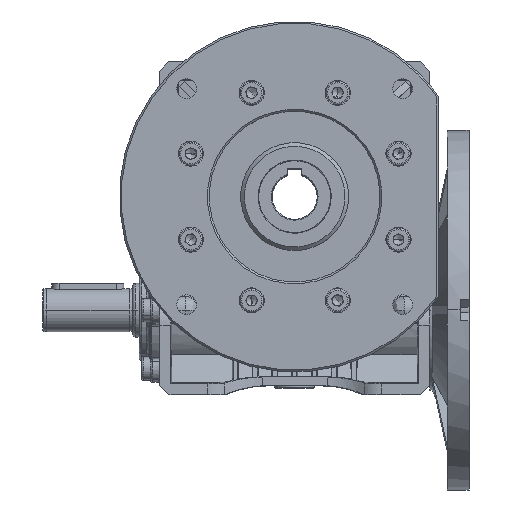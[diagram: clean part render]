
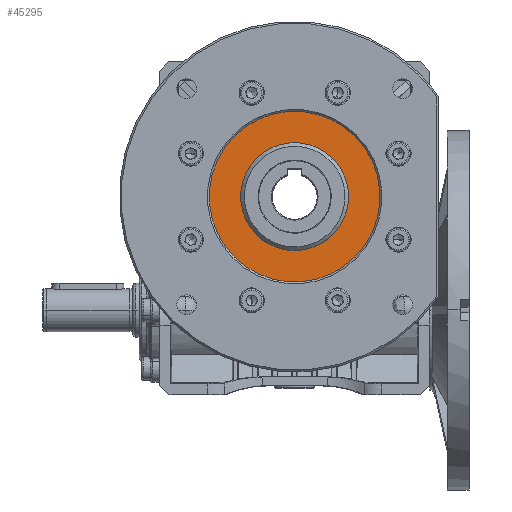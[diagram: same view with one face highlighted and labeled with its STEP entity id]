
A CAD part, top view. The second image highlights one B-rep face of the part: STEP entity #45295.
In plain terms, the highlighted planar face has unit normal (0, 0, 1).
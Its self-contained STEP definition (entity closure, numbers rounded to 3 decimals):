
#12583 = CARTESIAN_POINT ( 'NONE',  ( 0., 0., 76. ) ) ;
#13094 = DIRECTION ( 'NONE',  ( 0., 0., -1. ) ) ;
#13848 = DIRECTION ( 'NONE',  ( 0., 0., 1. ) ) ;
#15398 = DIRECTION ( 'NONE',  ( 0., 0., 1. ) ) ;
#15937 = DIRECTION ( 'NONE',  ( -0.707, -0.707, 0. ) ) ;
#16703 = AXIS2_PLACEMENT_3D ( 'NONE', #116615, #15398, #19651 ) ;
#19651 = DIRECTION ( 'NONE',  ( -0.707, -0.707, 0. ) ) ;
#20475 = CARTESIAN_POINT ( 'NONE',  ( 21.213, 21.213, 76. ) ) ;
#29910 = EDGE_CURVE ( 'NONE', #62662, #45640, #37821, .T. ) ;
#34209 = CARTESIAN_POINT ( 'NONE',  ( -21.213, -21.213, 76. ) ) ;
#37821 = CIRCLE ( 'NONE', #125364, 30. ) ;
#41453 = ORIENTED_EDGE ( 'NONE', *, *, #29910, .T. ) ;
#43768 = AXIS2_PLACEMENT_3D ( 'NONE', #80753, #13094, #52023 ) ;
#44325 = EDGE_LOOP ( 'NONE', ( #56516, #120157 ) ) ;
#45295 = ADVANCED_FACE ( 'NONE', ( #86246, #115565 ), #116192, .F. ) ;
#45640 = VERTEX_POINT ( 'NONE', #106475 ) ;
#49324 = CIRCLE ( 'NONE', #16703, 48.5 ) ;
#52023 = DIRECTION ( 'NONE',  ( -0.707, -0.707, 0. ) ) ;
#52762 = DIRECTION ( 'NONE',  ( -0.707, -0.707, 0. ) ) ;
#53998 = EDGE_CURVE ( 'NONE', #77110, #83317, #49324, .T. ) ;
#56516 = ORIENTED_EDGE ( 'NONE', *, *, #53998, .T. ) ;
#56874 = ORIENTED_EDGE ( 'NONE', *, *, #72981, .T. ) ;
#59386 = DIRECTION ( 'NONE',  ( 0., 0., -1. ) ) ;
#62662 = VERTEX_POINT ( 'NONE', #34209 ) ;
#63801 = CARTESIAN_POINT ( 'NONE',  ( 0., 0., 76. ) ) ;
#63921 = AXIS2_PLACEMENT_3D ( 'NONE', #20475, #59386, #109074 ) ;
#70118 = CIRCLE ( 'NONE', #43768, 30. ) ;
#72981 = EDGE_CURVE ( 'NONE', #45640, #62662, #70118, .T. ) ;
#77001 = AXIS2_PLACEMENT_3D ( 'NONE', #12583, #13848, #52762 ) ;
#77110 = VERTEX_POINT ( 'NONE', #119138 ) ;
#80753 = CARTESIAN_POINT ( 'NONE',  ( 0., 0., 76. ) ) ;
#83317 = VERTEX_POINT ( 'NONE', #89458 ) ;
#86246 = FACE_BOUND ( 'NONE', #90132, .T. ) ;
#89458 = CARTESIAN_POINT ( 'NONE',  ( 34.295, 34.295, 76. ) ) ;
#90132 = EDGE_LOOP ( 'NONE', ( #41453, #56874 ) ) ;
#99312 = CIRCLE ( 'NONE', #77001, 48.5 ) ;
#99992 = EDGE_CURVE ( 'NONE', #83317, #77110, #99312, .T. ) ;
#102700 = DIRECTION ( 'NONE',  ( 0., 0., -1. ) ) ;
#106475 = CARTESIAN_POINT ( 'NONE',  ( 21.213, 21.213, 76. ) ) ;
#109074 = DIRECTION ( 'NONE',  ( -0.707, -0.707, 0. ) ) ;
#115565 = FACE_OUTER_BOUND ( 'NONE', #44325, .T. ) ;
#116192 = PLANE ( 'NONE',  #63921 ) ;
#116615 = CARTESIAN_POINT ( 'NONE',  ( 0., 0., 76. ) ) ;
#119138 = CARTESIAN_POINT ( 'NONE',  ( -34.295, -34.295, 76. ) ) ;
#120157 = ORIENTED_EDGE ( 'NONE', *, *, #99992, .T. ) ;
#125364 = AXIS2_PLACEMENT_3D ( 'NONE', #63801, #102700, #15937 ) ;
